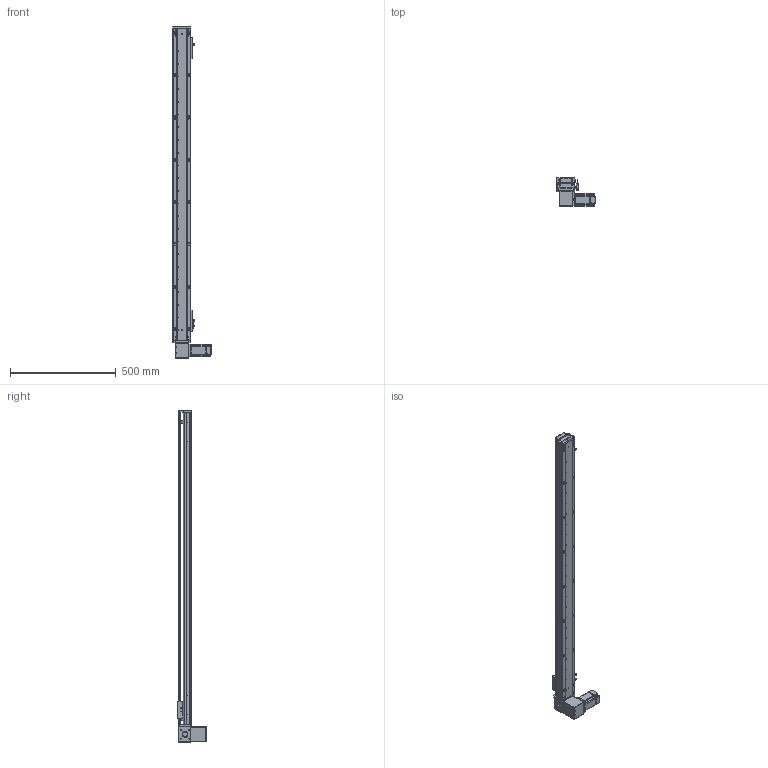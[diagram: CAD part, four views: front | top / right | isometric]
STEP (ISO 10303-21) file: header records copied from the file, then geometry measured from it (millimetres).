
FILE_DESCRIPTION (( 'STEP AP203' ), '1' );
FILE_NAME ('RY80-T-300-DR.SLDASM_1300.step', '2021-03-01T01:50:34', ( '盈信电脑' ), ( '东莞市道滘镇水果街19号' ), 'SwSTEP 2.0', 'SolidWorks 2012', '' );
FILE_SCHEMA (( 'CONFIG_CONTROL_DESIGN' ));
Products named in the file (18): 1; RY80-T-300-DR.SLDASM_1300; RY80-T萇儂假蚾啣; RY80-T-M4蹟翐3; 滅袉蝶18-10; RY80-T-上下折同步轮盖板; RY80-T翋肮祭謫裔啣; RY80-T肮祭謫狟殏俋欶; RY80-T肮祭湍揤輸2; RY80-T肮祭湍揤輸1; RY80-T-翋肮祭謫釱; 覜茼ん672; 672嫖萇羲壽假蚾釱; RY80俋离覜茼え; RY80-T綴裔啣; RY80-T肮祭謫臏賑輸; RY80-T-300-DR倰第菁釱_1300; RY80-T-300-DR倰第奻裔啣_1300
Assembly tree (21 placements, depth 2):
  RY80-T-300-DR.SLDASM_1300
    RY80-T-300-DR倰第菁釱_1300
    RY80-T肮祭謫臏賑輸
    RY80-T-300-DR倰第奻裔啣_1300
    RY80-T綴裔啣
    672嫖萇羲壽假蚾釱  x2
    覜茼ん672  x3
    RY80俋离覜茼え
    RY80-T-翋肮祭謫釱
    RY80-T肮祭湍揤輸1
    RY80-T肮祭湍揤輸2
    滅袉蝶18-10  x2
    RY80-T翋肮祭謫裔啣
    RY80-T-上下折同步轮盖板
    RY80-T肮祭謫狟殏俋欶
    RY80-T萇儂假蚾啣
    1
    RY80-T-M4蹟翐3
Bounding box: 180 x 134.5 x 1570 mm (x, y, z)
Volume: 2554276.3 mm3; surface area: 1077573.9 mm2
Topology: 21 solids, 21 shells, 2467 faces, 6835 edges, 4440 vertices
Faces by surface type: plane 1317, cylinder 953, cone 141, bspline 56
Entity records: 79044 total; most frequent: CARTESIAN_POINT 19398, ORIENTED_EDGE 12314, DIRECTION 11520, EDGE_CURVE 6157, VERTEX_POINT 4044, AXIS2_PLACEMENT_3D 3878, LINE 3764, VECTOR 3764
